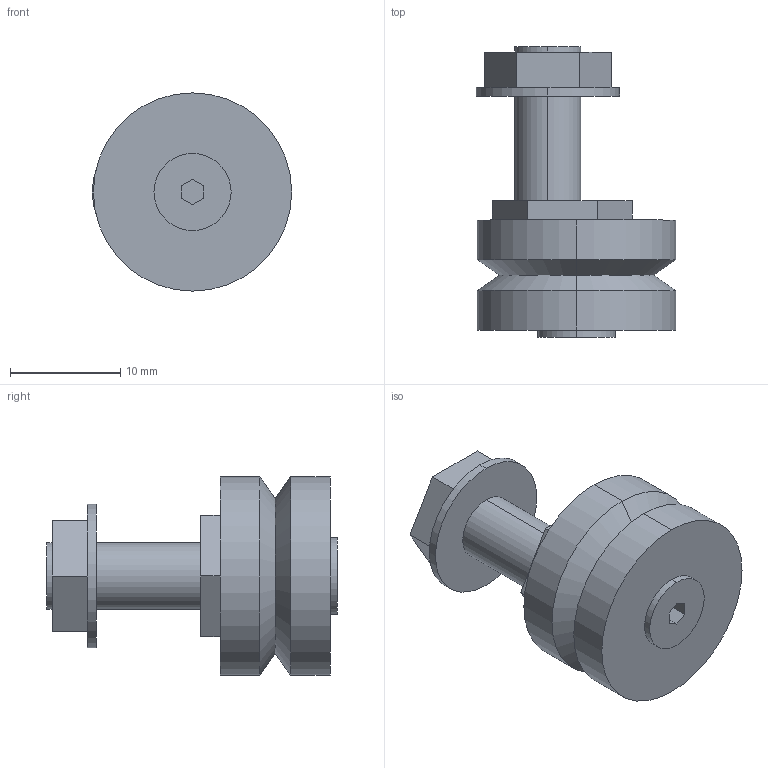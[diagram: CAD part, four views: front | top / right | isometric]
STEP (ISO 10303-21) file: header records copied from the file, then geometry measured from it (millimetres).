
FILE_DESCRIPTION(('STEP AP203'),'1');
FILE_NAME('rlj_18_de_ns.stp','2021-08-30T07:03:49',('TraceParts'),('TraceParts S.A.'),'Spatial InterOp 3D',' ',' ');
FILE_SCHEMA(('CONFIG_CONTROL_DESIGN'));
Length unit declared in the file: millimetre
Products named in the file (1): 1
Bounding box: 18.1 x 26.4 x 18 mm (x, y, z)
Volume: 3249.3 mm3; surface area: 1823.2 mm2
Topology: 1 solids, 1 shells, 50 faces, 114 edges, 74 vertices
Faces by surface type: plane 34, cylinder 12, cone 4
Entity records: 1440 total; most frequent: DIRECTION 242, CARTESIAN_POINT 239, ORIENTED_EDGE 228, EDGE_CURVE 114, LINE 88, VECTOR 88, AXIS2_PLACEMENT_3D 77, VERTEX_POINT 74
